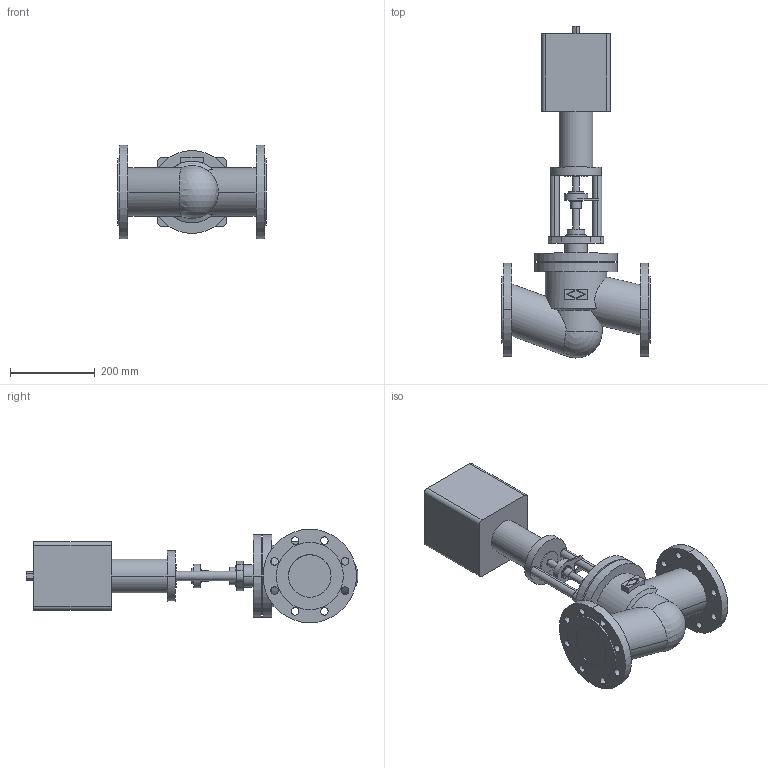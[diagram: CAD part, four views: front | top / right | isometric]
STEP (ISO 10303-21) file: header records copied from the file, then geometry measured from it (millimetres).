
FILE_DESCRIPTION( ( '' ), '1' );
FILE_NAME( 'F:/DE-SHS/TB/OR/04-Sonstiges/daten/files_3d/440-FR2.2/440-PN16-FR2_2/c000004535.stp', '2014-11-06T09:37:30', ( '' ), ( '' ), ' ', ' ', ' ' );
FILE_SCHEMA( ( 'CONFIG_CONTROL_DESIGN' ) );
Length unit declared in the file: millimetre
Products named in the file (2): 1; 2
Bounding box: 350 x 781.55 x 220 mm (x, y, z)
Volume: 13506639.7 mm3; surface area: 691255.7 mm2
Topology: 2 solids, 2 shells, 166 faces, 408 edges, 270 vertices
Faces by surface type: cylinder 94, plane 69, cone 2, sphere 1
Entity records: 5643 total; most frequent: CARTESIAN_POINT 1388, DIRECTION 929, ORIENTED_EDGE 812, EDGE_CURVE 406, AXIS2_PLACEMENT_3D 369, VERTEX_POINT 270, EDGE_LOOP 224, CIRCLE 197
